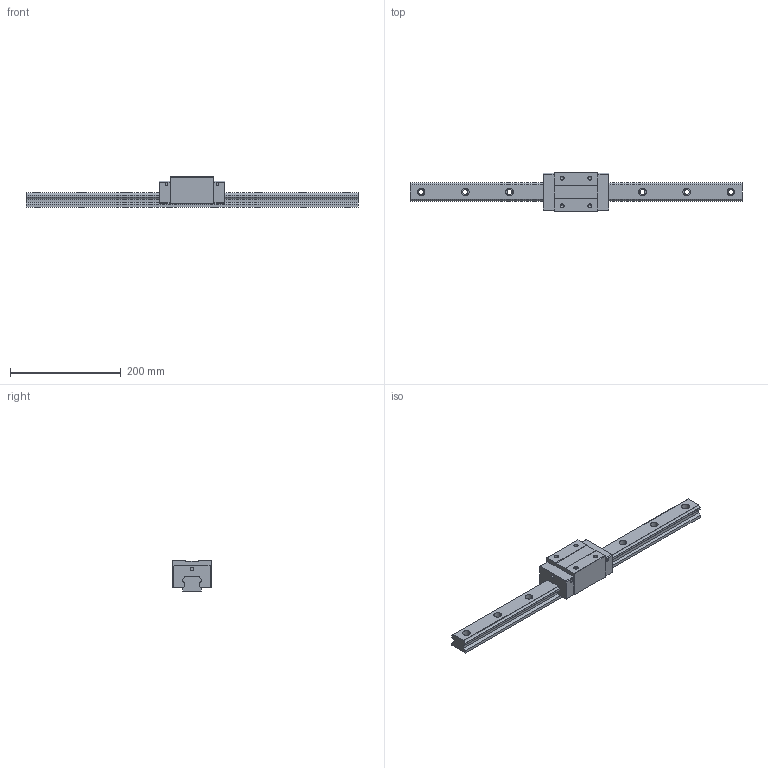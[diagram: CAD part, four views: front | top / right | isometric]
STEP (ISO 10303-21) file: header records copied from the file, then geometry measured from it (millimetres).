
FILE_DESCRIPTION (( 'STEP AP203' ), '1' );
FILE_NAME ('TRH35VN-ZN.STEP', '2024-05-20T08:00:17', ( '' ), ( '' ), 'SwSTEP 2.0', 'SolidWorks 2022', '' );
FILE_SCHEMA (( 'CONFIG_CONTROL_DESIGN' ));
Length unit declared in the file: millimetre
Products named in the file (1): TRH35VN-ZN
Bounding box: 600 x 70 x 55 mm (x, y, z)
Volume: 747892.2 mm3; surface area: 121356.5 mm2
Topology: 2 solids, 2 shells, 186 faces, 488 edges, 316 vertices
Faces by surface type: cylinder 88, plane 82, cone 16
Entity records: 5819 total; most frequent: DIRECTION 1038, CARTESIAN_POINT 983, ORIENTED_EDGE 960, EDGE_CURVE 480, AXIS2_PLACEMENT_3D 371, VERTEX_POINT 316, LINE 296, VECTOR 296
